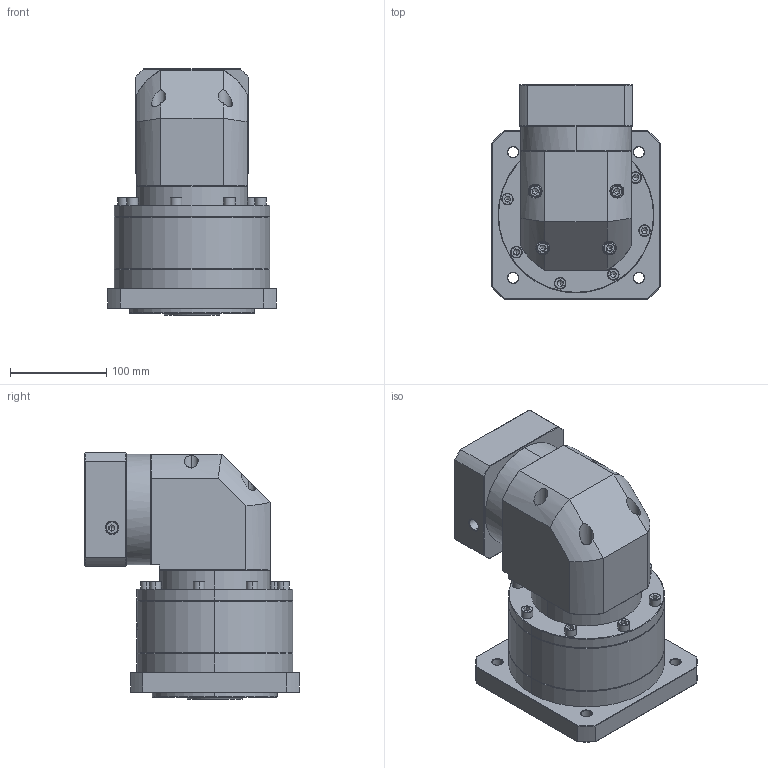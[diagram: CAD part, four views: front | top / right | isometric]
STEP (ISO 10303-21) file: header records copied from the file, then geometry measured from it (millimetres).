
FILE_DESCRIPTION (( 'STEP AP214' ), '1' );
FILE_NAME ('ZFR160A-K35-L2-P2-22-110-130-M8.step', '2023-09-03T09:43:46', ( '' ), ( '' ), 'SwSTEP 2.0', 'SolidWorks 2016', '' );
FILE_SCHEMA (( 'AUTOMOTIVE_DESIGN' ));
Length unit declared in the file: millimetre
Products named in the file (1): ZFR160A-K35-L2-P2-22-110-130-M8
Bounding box: 175 x 222.4 x 256.2 mm (x, y, z)
Volume: 4637665.5 mm3; surface area: 333343.9 mm2
Topology: 6 solids, 6 shells, 2414 faces, 6317 edges, 4029 vertices
Faces by surface type: plane 1139, cylinder 462, bspline 404, cone 365, torus 44
Entity records: 126445 total; most frequent: CARTESIAN_POINT 45643, ORIENTED_EDGE 12530, DIRECTION 9555, EDGE_CURVE 6265, VERTEX_POINT 4029, VECTOR 3381, LINE 3381, AXIS2_PLACEMENT_3D 3087
